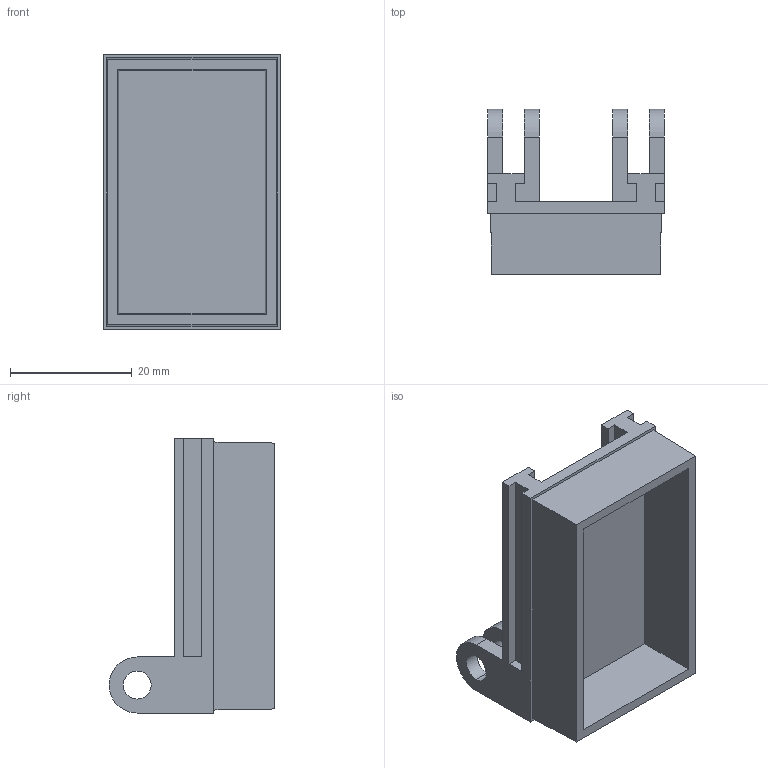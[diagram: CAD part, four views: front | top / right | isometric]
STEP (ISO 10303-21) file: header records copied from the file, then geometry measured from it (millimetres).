
FILE_DESCRIPTION (( 'STEP AP214' ), '1' );
FILE_NAME ('rail_plus holes_top for container.STEP', '2025-06-15T00:40:57', ( '' ), ( '' ), 'SwSTEP 2.0', 'SolidWorks 2024', '' );
FILE_SCHEMA (( 'AUTOMOTIVE_DESIGN' ));
Length unit declared in the file: millimetre
Products named in the file (1): rail_plus holes_top for container
Bounding box: 29 x 27.2 x 44.98 mm (x, y, z)
Volume: 7811.4 mm3; surface area: 7870.5 mm2
Topology: 1 solids, 1 shells, 54 faces, 150 edges, 100 vertices
Faces by surface type: plane 42, cylinder 12
Entity records: 1757 total; most frequent: CARTESIAN_POINT 305, ORIENTED_EDGE 300, DIRECTION 284, EDGE_CURVE 150, VECTOR 126, LINE 126, VERTEX_POINT 100, AXIS2_PLACEMENT_3D 79
